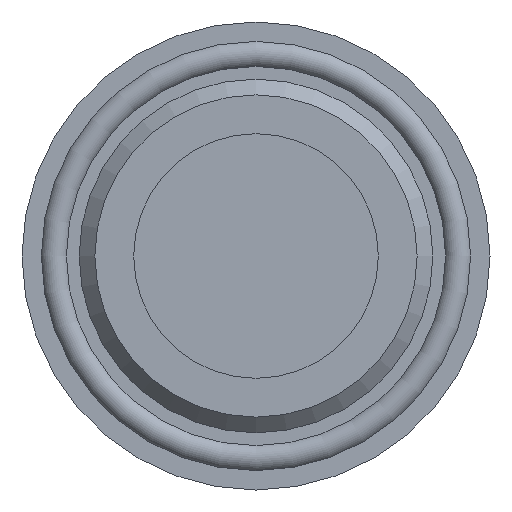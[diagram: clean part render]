
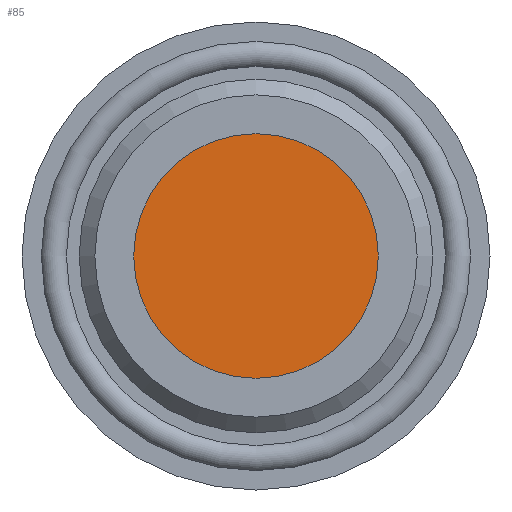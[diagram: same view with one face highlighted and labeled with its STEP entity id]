
A CAD part, front view. The second image highlights one B-rep face of the part: STEP entity #85.
In plain terms, the highlighted planar face has unit normal (0, -1, 0).
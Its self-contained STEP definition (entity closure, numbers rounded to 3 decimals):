
#85 = ADVANCED_FACE( '', ( #155 ), #156, .T. );
#155 = FACE_OUTER_BOUND( '', #272, .T. );
#156 = PLANE( '', #273 );
#272 = EDGE_LOOP( '', ( #424 ) );
#273 = AXIS2_PLACEMENT_3D( '', #425, #426, #427 );
#424 = ORIENTED_EDGE( '', *, *, #774, .T. );
#425 = CARTESIAN_POINT( '', ( 0., 17., 0. ) );
#426 = DIRECTION( '', ( 0., -1., 0. ) );
#427 = DIRECTION( '', ( 0., 0., -1. ) );
#774 = EDGE_CURVE( '', #912, #912, #913, .T. );
#912 = VERTEX_POINT( '', #1156 );
#913 = CIRCLE( '', #1157, 11.5 );
#1156 = CARTESIAN_POINT( '', ( 0., 17., -11.5 ) );
#1157 = AXIS2_PLACEMENT_3D( '', #1471, #1472, #1473 );
#1471 = CARTESIAN_POINT( '', ( 0., 17., 0. ) );
#1472 = DIRECTION( '', ( 0., -1., 0. ) );
#1473 = DIRECTION( '', ( 0., 0., -1. ) );
